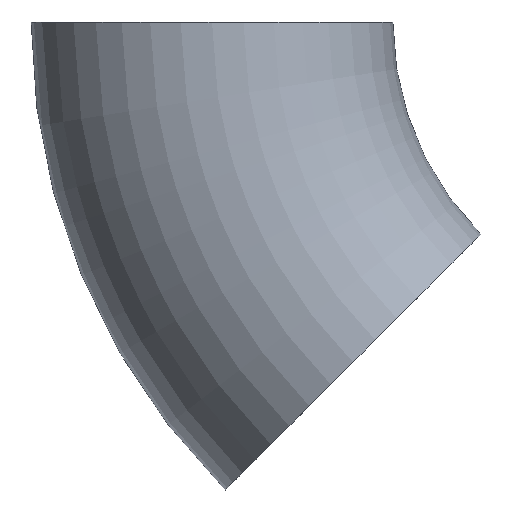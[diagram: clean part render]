
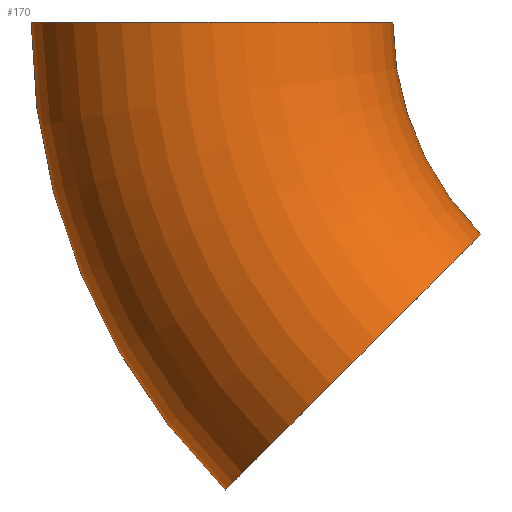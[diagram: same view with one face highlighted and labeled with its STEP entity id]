
A CAD part, front view. The second image highlights one B-rep face of the part: STEP entity #170.
In plain terms, the highlighted toroidal (fillet/blend) face has major radius 152 mm and minor radius 57.15 mm.
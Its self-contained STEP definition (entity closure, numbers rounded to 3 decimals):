
#5 = DIRECTION ( 'NONE',  ( -0.707, 0., 0.707 ) ) ;
#10 = DIRECTION ( 'NONE',  ( 0., 0., 1. ) ) ;
#15 = DIRECTION ( 'NONE',  ( 0., 1., 0. ) ) ;
#16 = EDGE_CURVE ( 'NONE', #87, #238, #185, .T. ) ;
#19 = FACE_OUTER_BOUND ( 'NONE', #104, .T. ) ;
#27 = CARTESIAN_POINT ( 'NONE',  ( -94.85, 0., 0. ) ) ;
#33 = AXIS2_PLACEMENT_3D ( 'NONE', #205, #220, #10 ) ;
#41 = DIRECTION ( 'NONE',  ( 0.707, 0., 0.707 ) ) ;
#43 = VERTEX_POINT ( 'NONE', #46 ) ;
#46 = CARTESIAN_POINT ( 'NONE',  ( -209.15, 0., 0. ) ) ;
#47 = TOROIDAL_SURFACE ( 'NONE', #191, 152., 57.15 ) ;
#71 = EDGE_CURVE ( 'NONE', #87, #43, #165, .T. ) ;
#86 = AXIS2_PLACEMENT_3D ( 'NONE', #239, #150, #130 ) ;
#87 = VERTEX_POINT ( 'NONE', #152 ) ;
#93 = AXIS2_PLACEMENT_3D ( 'NONE', #176, #15, #214 ) ;
#96 = AXIS2_PLACEMENT_3D ( 'NONE', #241, #5, #41 ) ;
#101 = VERTEX_POINT ( 'NONE', #27 ) ;
#104 = EDGE_LOOP ( 'NONE', ( #209, #237, #125, #231 ) ) ;
#120 = EDGE_CURVE ( 'NONE', #43, #101, #236, .T. ) ;
#125 = ORIENTED_EDGE ( 'NONE', *, *, #228, .T. ) ;
#130 = DIRECTION ( 'NONE',  ( 1., 0., 0. ) ) ;
#134 = CARTESIAN_POINT ( 'NONE',  ( 0., 0., 0. ) ) ;
#136 = DIRECTION ( 'NONE',  ( 0., 1., 0. ) ) ;
#150 = DIRECTION ( 'NONE',  ( 0., 0., 1. ) ) ;
#152 = CARTESIAN_POINT ( 'NONE',  ( -147.891, 0., -147.891 ) ) ;
#165 = CIRCLE ( 'NONE', #33, 209.15 ) ;
#170 = ADVANCED_FACE ( 'NONE', ( #19 ), #47, .T. ) ;
#176 = CARTESIAN_POINT ( 'NONE',  ( 0., 0., 0. ) ) ;
#185 = CIRCLE ( 'NONE', #96, 57.15 ) ;
#191 = AXIS2_PLACEMENT_3D ( 'NONE', #134, #136, #227 ) ;
#196 = CIRCLE ( 'NONE', #93, 94.85 ) ;
#205 = CARTESIAN_POINT ( 'NONE',  ( 0., 0., 0. ) ) ;
#209 = ORIENTED_EDGE ( 'NONE', *, *, #71, .F. ) ;
#214 = DIRECTION ( 'NONE',  ( 0., 0., 1. ) ) ;
#220 = DIRECTION ( 'NONE',  ( 0., 1., 0. ) ) ;
#227 = DIRECTION ( 'NONE',  ( 0., 0., 1. ) ) ;
#228 = EDGE_CURVE ( 'NONE', #238, #101, #196, .T. ) ;
#231 = ORIENTED_EDGE ( 'NONE', *, *, #120, .F. ) ;
#236 = CIRCLE ( 'NONE', #86, 57.15 ) ;
#237 = ORIENTED_EDGE ( 'NONE', *, *, #16, .T. ) ;
#238 = VERTEX_POINT ( 'NONE', #247 ) ;
#239 = CARTESIAN_POINT ( 'NONE',  ( -152., 0., 0. ) ) ;
#241 = CARTESIAN_POINT ( 'NONE',  ( -107.48, 0., -107.48 ) ) ;
#247 = CARTESIAN_POINT ( 'NONE',  ( -67.069, 0., -67.069 ) ) ;
